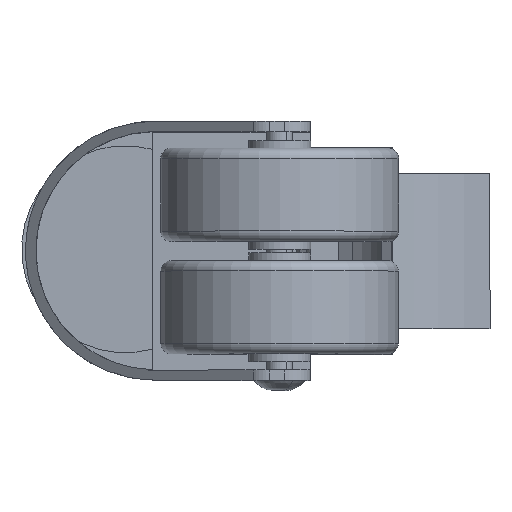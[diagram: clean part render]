
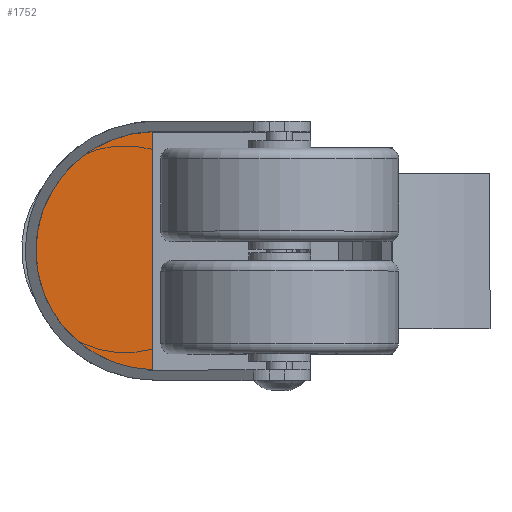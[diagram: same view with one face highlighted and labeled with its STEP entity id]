
A CAD part, top view. The second image highlights one B-rep face of the part: STEP entity #1752.
In plain terms, the highlighted planar face has unit normal (0, 0, 1).
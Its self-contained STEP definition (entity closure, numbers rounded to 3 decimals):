
#76 = VECTOR ( 'NONE', #278, 1000. ) ;
#278 = DIRECTION ( 'NONE',  ( 1., 0., 0. ) ) ;
#373 = CARTESIAN_POINT ( 'NONE',  ( 1.984, 9., 0.06 ) ) ;
#381 = AXIS2_PLACEMENT_3D ( 'NONE', #570, #1150, #3273 ) ;
#570 = CARTESIAN_POINT ( 'NONE',  ( -21.115, 9., 0.06 ) ) ;
#796 = EDGE_CURVE ( 'NONE', #3481, #1083, #2993, .T. ) ;
#979 = AXIS2_PLACEMENT_3D ( 'NONE', #3066, #1246, #3372 ) ;
#987 = EDGE_CURVE ( 'NONE', #3481, #1083, #2402, .T. ) ;
#1083 = VERTEX_POINT ( 'NONE', #373 ) ;
#1150 = DIRECTION ( 'NONE',  ( 0., 0., -1. ) ) ;
#1246 = DIRECTION ( 'NONE',  ( 0., 0., -1. ) ) ;
#1410 = EDGE_LOOP ( 'NONE', ( #3532, #1947 ) ) ;
#1752 = ADVANCED_FACE ( 'NONE', ( #2488 ), #2039, .F. ) ;
#1947 = ORIENTED_EDGE ( 'NONE', *, *, #796, .T. ) ;
#2039 = PLANE ( 'NONE',  #381 ) ;
#2061 = CARTESIAN_POINT ( 'NONE',  ( 0., 9., 0.06 ) ) ;
#2402 = CIRCLE ( 'NONE', #979, 23. ) ;
#2488 = FACE_OUTER_BOUND ( 'NONE', #1410, .T. ) ;
#2993 = LINE ( 'NONE', #2061, #76 ) ;
#3066 = CARTESIAN_POINT ( 'NONE',  ( -21.011, 8.511, 0.06 ) ) ;
#3238 = CARTESIAN_POINT ( 'NONE',  ( -44.006, 9., 0.06 ) ) ;
#3273 = DIRECTION ( 'NONE',  ( -1., 0., 0. ) ) ;
#3372 = DIRECTION ( 'NONE',  ( -1., 0., 0. ) ) ;
#3481 = VERTEX_POINT ( 'NONE', #3238 ) ;
#3532 = ORIENTED_EDGE ( 'NONE', *, *, #987, .F. ) ;
